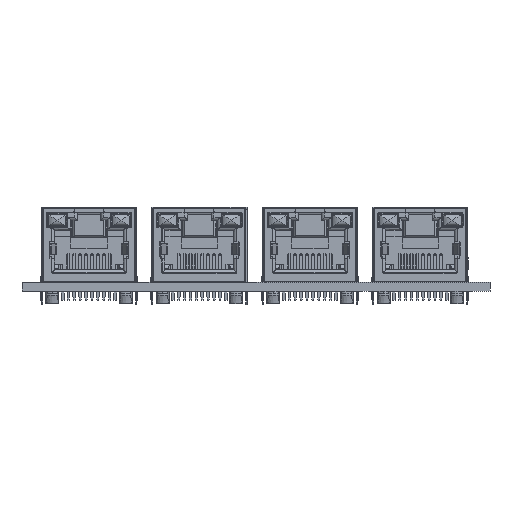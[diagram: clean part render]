
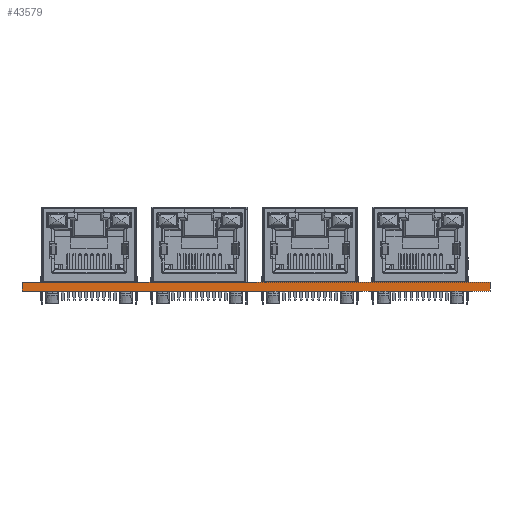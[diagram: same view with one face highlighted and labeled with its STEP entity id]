
A CAD part, front view. The second image highlights one B-rep face of the part: STEP entity #43579.
In plain terms, the highlighted planar face has unit normal (0, -1, 0).
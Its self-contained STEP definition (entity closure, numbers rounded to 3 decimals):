
#43579 = ADVANCED_FACE('',(#43580),#43614,.T.);
#43580 = FACE_BOUND('',#43581,.T.);
#43581 = EDGE_LOOP('',(#43582,#43592,#43600,#43608));
#43582 = ORIENTED_EDGE('',*,*,#43583,.T.);
#43583 = EDGE_CURVE('',#43584,#43586,#43588,.T.);
#43584 = VERTEX_POINT('',#43585);
#43585 = CARTESIAN_POINT('',(337.,-420.1,0.));
#43586 = VERTEX_POINT('',#43587);
#43587 = CARTESIAN_POINT('',(337.,-420.1,1.51));
#43588 = LINE('',#43589,#43590);
#43589 = CARTESIAN_POINT('',(337.,-420.1,0.));
#43590 = VECTOR('',#43591,1.);
#43591 = DIRECTION('',(0.,0.,1.));
#43592 = ORIENTED_EDGE('',*,*,#43593,.T.);
#43593 = EDGE_CURVE('',#43586,#43594,#43596,.T.);
#43594 = VERTEX_POINT('',#43595);
#43595 = CARTESIAN_POINT('',(256.,-420.1,1.51));
#43596 = LINE('',#43597,#43598);
#43597 = CARTESIAN_POINT('',(337.,-420.1,1.51));
#43598 = VECTOR('',#43599,1.);
#43599 = DIRECTION('',(-1.,0.,0.));
#43600 = ORIENTED_EDGE('',*,*,#43601,.F.);
#43601 = EDGE_CURVE('',#43602,#43594,#43604,.T.);
#43602 = VERTEX_POINT('',#43603);
#43603 = CARTESIAN_POINT('',(256.,-420.1,0.));
#43604 = LINE('',#43605,#43606);
#43605 = CARTESIAN_POINT('',(256.,-420.1,0.));
#43606 = VECTOR('',#43607,1.);
#43607 = DIRECTION('',(0.,0.,1.));
#43608 = ORIENTED_EDGE('',*,*,#43609,.F.);
#43609 = EDGE_CURVE('',#43584,#43602,#43610,.T.);
#43610 = LINE('',#43611,#43612);
#43611 = CARTESIAN_POINT('',(337.,-420.1,0.));
#43612 = VECTOR('',#43613,1.);
#43613 = DIRECTION('',(-1.,0.,0.));
#43614 = PLANE('',#43615);
#43615 = AXIS2_PLACEMENT_3D('',#43616,#43617,#43618);
#43616 = CARTESIAN_POINT('',(337.,-420.1,0.));
#43617 = DIRECTION('',(0.,-1.,0.));
#43618 = DIRECTION('',(-1.,0.,0.));
